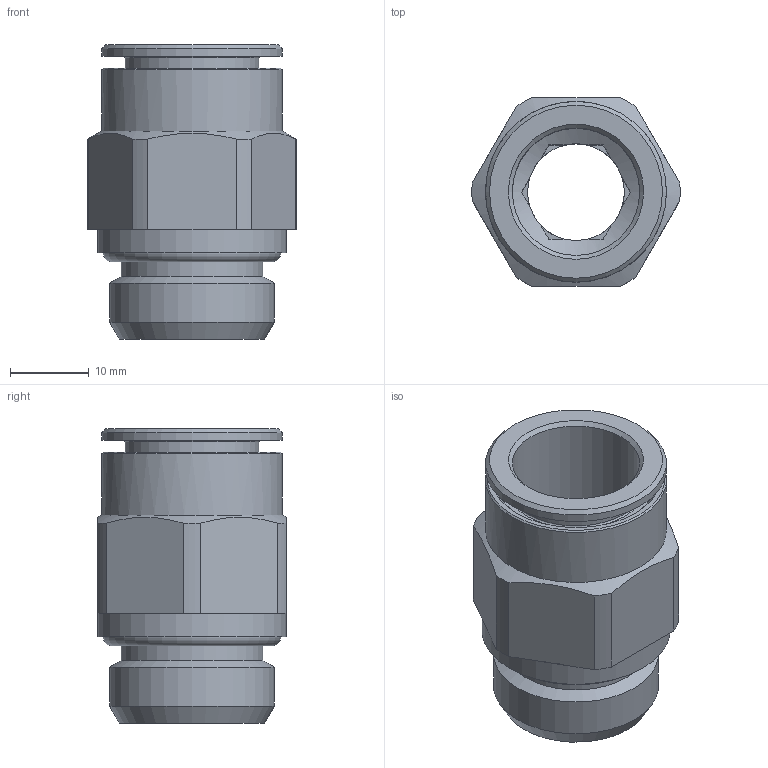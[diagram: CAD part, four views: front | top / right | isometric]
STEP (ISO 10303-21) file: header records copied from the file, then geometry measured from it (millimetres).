
FILE_DESCRIPTION(/* description */ (''),/* implementation_level */ '2;1');
FILE_NAME(/* name */ 'V200138_IPSO01_16_G12_23.06.16',/* time_stamp */ '2016-06-23T09:22:16+02:00',/* author */ (''),/* organization */ (''),/* preprocessor_version */ 'ST-DEVELOPER v16.5',/* originating_system */ 'HiCAD 2016 2101.0 Build 254',/* authorisation */ '');
FILE_SCHEMA (('AUTOMOTIVE_DESIGN { 1 0 10303 214 1 1 1 1 }'));
Length unit declared in the file: millimetre
Products named in the file (4): Root; DR16; OR 17.12X2.62; R200138
Assembly tree (3 placements, depth 2):
  Root
    DR16
    OR 17.12X2.62
    R200138
Bounding box: 26.49 x 24 x 37.5 mm (x, y, z)
Volume: 7203.3 mm3; surface area: 7831.1 mm2
Topology: 3 solids, 3 shells, 76 faces, 177 edges, 111 vertices
Faces by surface type: plane 40, cylinder 19, cone 11, torus 6
Full cylindrical faces by diameter (mm): 12.3 x1, 16.2 x2, 17 x1, 17.2 x1, 18 x1, 20.2 x1, 20.4 x1, 20.955 x1, 21.2 x1, 23 x2, 24 x1
Entity records: 3437 total; most frequent: DIRECTION 388, CARTESIAN_POINT 324, PRESENTATION_STYLE_ASSIGNMENT 281, COLOUR_RGB 280, DRAUGHTING_PRE_DEFINED_CURVE_FONT 278, CURVE_STYLE 278, OVER_RIDING_STYLED_ITEM 278, ORIENTED_EDGE 278
